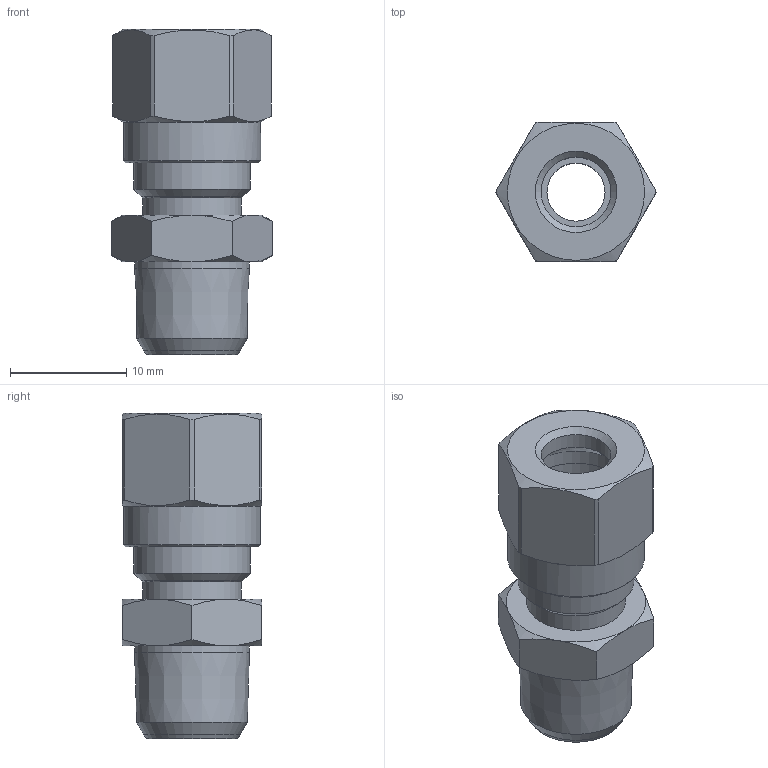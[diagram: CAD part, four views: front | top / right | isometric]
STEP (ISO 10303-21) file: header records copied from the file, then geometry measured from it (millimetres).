
FILE_DESCRIPTION(('Bauteilbeschreibung','HiCAD-Model','HiCAD-STEP-TRANSLATION','Bauteilbeschreibung'),'2;1');
FILE_NAME('B:/ABGLEICH/ZEICHNUNGEN/STEP FÜR INTERNET/STEP/201/94802_201_6_1-8.STP','2011-10-21T14:10:11+00:00',('Konstrukteur'),('Konstrukteur Firma GmbH'),' HiCAD neXt 2008, Step 3.1.1401.2J ','HiCAD neXt 2008','confidential');
FILE_SCHEMA(('AUTOMOTIVE_DESIGN { 1 2 10303 214 0 1 1 1 }'));
Length unit declared in the file: millimetre
Products named in the file (8): A4802_201_6_1_8; A4802; A48020; DIN 13_M10X1; R 1_8; A6802; A68020; DIN0130M10X1
Assembly tree (7 placements, depth 3):
  A4802_201_6_1_8
    A4802
    A48020
      DIN 13_M10X1
      R 1_8
    A6802
    A68020
      DIN0130M10X1
Bounding box: 13.86 x 12 x 28 mm (x, y, z)
Volume: 1919.6 mm3; surface area: 3260.7 mm2
Topology: 5 solids, 5 shells, 71 faces, 158 edges, 98 vertices
Faces by surface type: cone 29, plane 23, cylinder 19
Full cylindrical faces by diameter (mm): 5 x1, 6 x2, 8.5 x1, 8.773 x4, 9.884 x1, 10 x3, 11.8 x1
Entity records: 2488 total; most frequent: CARTESIAN_POINT 361, DIRECTION 314, ORIENTED_EDGE 234, AXIS2_PLACEMENT_3D 148, COLOUR_RGB 122, PRESENTATION_STYLE_ASSIGNMENT 122, CURVE_STYLE 117, DRAUGHTING_PRE_DEFINED_CURVE_FONT 117
